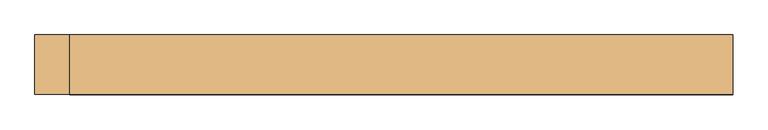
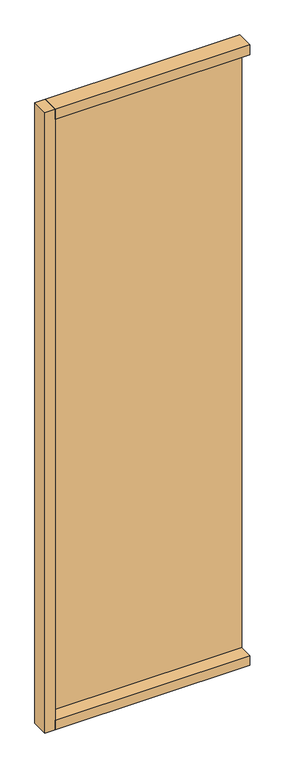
"""IFC4 building model written with IfcOpenShell, lengths in millimetres: door geometry, Mobiliário_Mobiliário de Escritório_Painel Vidro Simples - DVST e DVSL (Inicial ou Final)_Marelli : DV1ST - 10mm - Temperado."""

from ifc_helpers import new_model, si_unit, frame, origin, origin_with_axes, place, context, project, spatial, polyline, outline, extrude, source, transform, mapped, element, save


def door_c2c1fa3c(model_context):
    return source(origin(), model_context, "Body", "SweptSolid", [
        extrude(outline(polyline([(500.0, 42.5), (500.0, -42.5), (-450.0, -42.5), (-450.0, 42.5), (500.0, 42.5)])), origin_with_axes(), (0.0, 0.0, 1.0), 50.0),
        extrude(outline(polyline([(500.0, 42.5), (500.0, -42.5), (-450.0, -42.5), (-450.0, 42.5), (500.0, 42.5)])), frame((0.0, 0.0, 3150.0), z_axis=(0.0, 0.0, 1.0), x_axis=(1.0, 0.0, 0.0)), (0.0, 0.0, 1.0), 50.0),
        extrude(outline(polyline([(-500.0, -42.5), (-500.0, 42.5), (-450.0, 42.5), (-450.0, -42.5), (-500.0, -42.5)])), origin_with_axes(), (0.0, 0.0, 1.0), 3200.0),
        extrude(outline(polyline([(500.0, 35.1), (500.0, 25.1), (-450.0, 25.1), (-450.0, 35.1), (500.0, 35.1)])), frame((0.0, 0.0, 50.0), z_axis=(0.0, 0.0, 1.0), x_axis=(1.0, 0.0, 0.0)), (0.0, 0.0, 1.0), 3100.0),
    ])


if __name__ == "__main__":
    model = new_model("IFC4")
    model_context = context("Model", 3, world=origin())
    ifc_project = project(units=[si_unit("LENGTHUNIT", "METRE", prefix="MILLI")], contexts=[model_context])
    site = spatial("IfcSite", under=ifc_project)
    building = spatial("IfcBuilding", under=site)
    placement = place(None, origin())
    door_shape = door_c2c1fa3c(model_context)
    element("IfcDoor", 1, ObjectType="Mobiliário_Mobiliário de Escritório_Painel Vidro Simples - DVST e DVSL (Inicial ou Final)_Marelli : DV1ST - 10mm - Temperado", at=placement, inside=building, context=model_context, shape_type="MappedRepresentation", body=[
        mapped(door_shape, transform((0.0, 0.0, 0.0), x_axis=(1.0, 0.0, 0.0), y_axis=(0.0, 1.0, 0.0), z_axis=(0.0, 0.0, 1.0))),
    ])
    save(model, "model.ifc")
